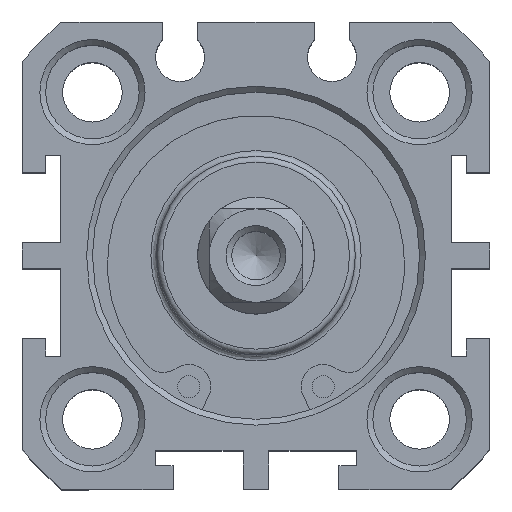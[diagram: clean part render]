
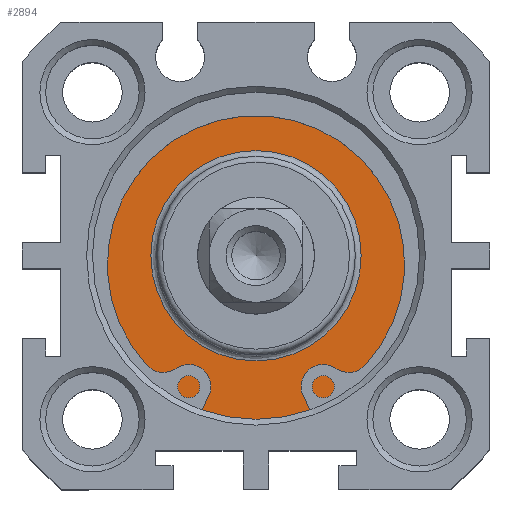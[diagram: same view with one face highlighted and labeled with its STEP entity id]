
A CAD part, top view. The second image highlights one B-rep face of the part: STEP entity #2894.
In plain terms, the highlighted planar face has unit normal (0, 0, 1).
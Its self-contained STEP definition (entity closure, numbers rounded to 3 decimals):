
#2843=CARTESIAN_POINT('',(-2.524,11.284,28.3));
#2844=VERTEX_POINT('',#2843);
#2845=CARTESIAN_POINT('',(-2.524,2.284,28.3));
#2846=DIRECTION('',(0.0,0.0,1.0));
#2847=DIRECTION('',(0.0,-1.0,0.0));
#2848=AXIS2_PLACEMENT_3D('',#2845,#2846,#2847);
#2849=CIRCLE('',#2848,9.);
#2850=EDGE_CURVE('',#2844,#2844,#2849,.T.);
#2875=CARTESIAN_POINT('',(-2.524,13.534,28.3));
#2876=DIRECTION('',(0.0,0.0,1.0));
#2877=DIRECTION('',(1.0,0.0,0.0));
#2878=AXIS2_PLACEMENT_3D('',#2875,#2876,#2877);
#2879=PLANE('',#2878);
#2880=CARTESIAN_POINT('',(-2.524,16.284,28.3));
#2881=VERTEX_POINT('',#2880);
#2882=CARTESIAN_POINT('',(-2.524,2.284,28.3));
#2883=DIRECTION('',(0.0,0.0,-1.0));
#2884=DIRECTION('',(0.0,1.0,0.0));
#2885=AXIS2_PLACEMENT_3D('',#2882,#2883,#2884);
#2886=CIRCLE('',#2885,14.);
#2887=EDGE_CURVE('',#2881,#2881,#2886,.T.);
#2888=ORIENTED_EDGE('',*,*,#2887,.F.);
#2889=EDGE_LOOP('',(#2888));
#2890=FACE_OUTER_BOUND('',#2889,.T.);
#2891=ORIENTED_EDGE('',*,*,#2850,.F.);
#2892=EDGE_LOOP('',(#2891));
#2893=FACE_BOUND('',#2892,.T.);
#2894=ADVANCED_FACE('',(#2890,#2893),#2879,.T.);
